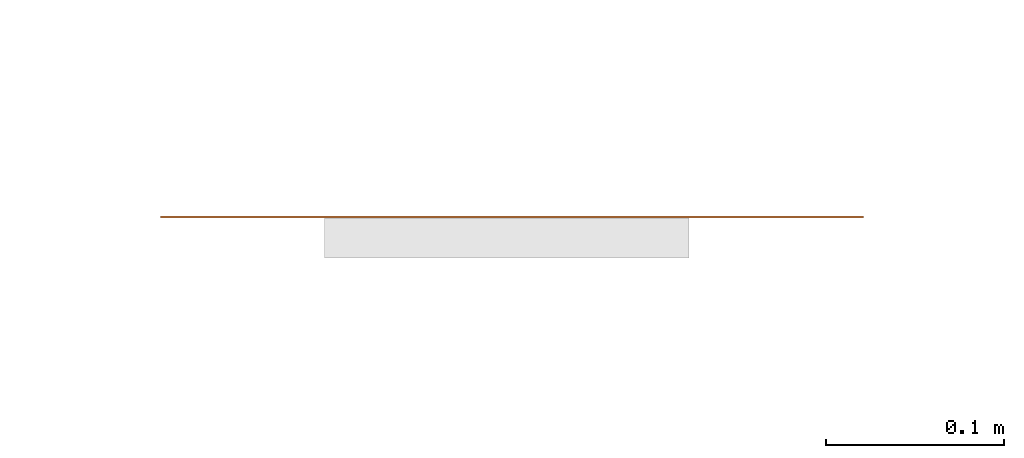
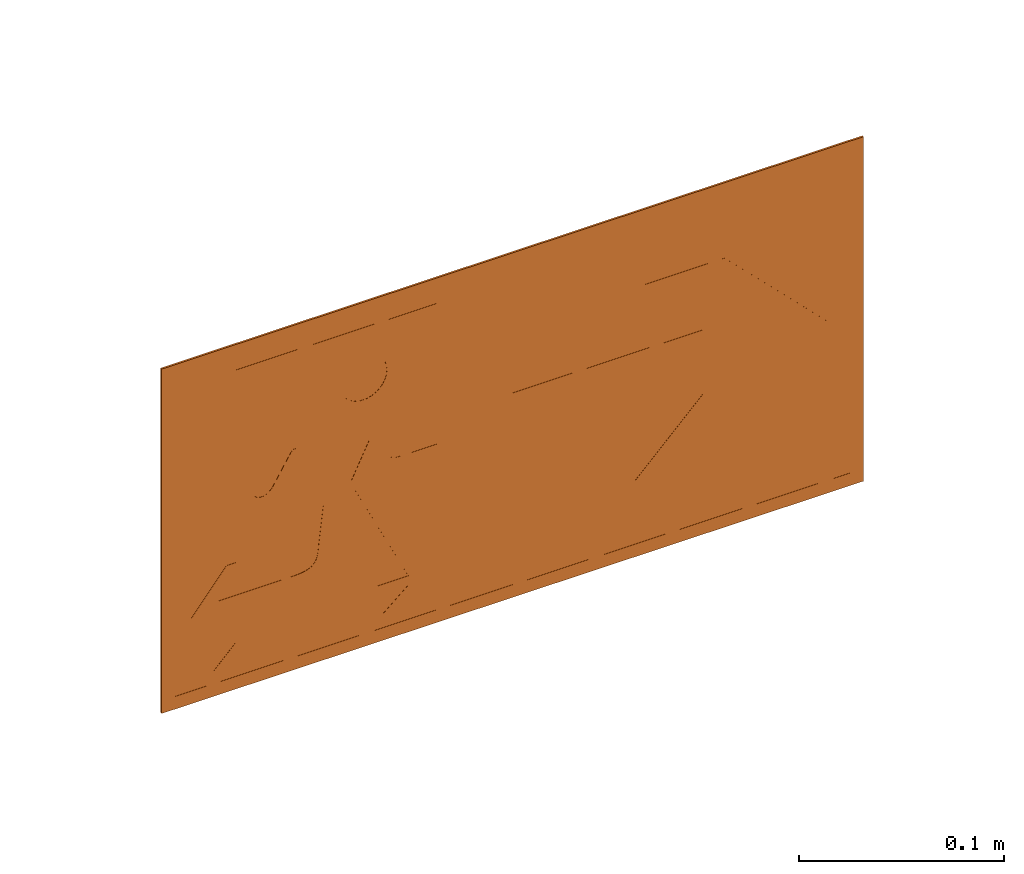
# One storey, part 50 of 119: 1 proxy.
"""IFC2X3 building model written with IfcOpenShell, lengths in metres."""

from ifc_helpers import new_model, entity, si_unit, converted_unit, derived_unit, direction, frame, frame_2d, origin, origin_2d_with_axis, place, context, subcontext, project, spatial, polyline, circle_curve, parameter, trimmed, segment, composite_curve, rectangle, outline, extrude, source, transform, mapped, material, material_list, type_object, type_shapes, element, save


model = new_model("IFC2X3")

# Units and contexts
model_context = context("Model", 3, precision=1e-05, world=origin(), true_north=direction((6.12303176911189e-17, 1.0)))
body_context = subcontext(model_context, "Body", "Model", "MODEL_VIEW")
ifc_project = project(units=[si_unit("LENGTHUNIT", "METRE"), si_unit("AREAUNIT", "SQUARE_METRE"), si_unit("VOLUMEUNIT", "CUBIC_METRE"), converted_unit("PLANEANGLEUNIT", "DEGREE", entity("IfcRatioMeasure", 0.0174532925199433), si_unit("PLANEANGLEUNIT", "RADIAN"), dimensions=[0, 0, 0, 0, 0, 0, 0]), si_unit("MASSUNIT", "GRAM", prefix="KILO"), derived_unit("MASSDENSITYUNIT", [(si_unit("MASSUNIT", "GRAM", prefix="KILO"), 1), (si_unit("LENGTHUNIT", "METRE"), -3)]), derived_unit("MOMENTOFINERTIAUNIT", [(si_unit("LENGTHUNIT", "METRE"), 4)]), si_unit("TIMEUNIT", "SECOND"), si_unit("FREQUENCYUNIT", "HERTZ"), si_unit("THERMODYNAMICTEMPERATUREUNIT", "DEGREE_CELSIUS"), derived_unit("THERMALTRANSMITTANCEUNIT", [(si_unit("MASSUNIT", "GRAM", prefix="KILO"), 1), (si_unit("THERMODYNAMICTEMPERATUREUNIT", "KELVIN"), -1), (si_unit("TIMEUNIT", "SECOND"), -3)]), derived_unit("VOLUMETRICFLOWRATEUNIT", [(si_unit("LENGTHUNIT", "METRE"), 3), (si_unit("TIMEUNIT", "SECOND"), -1)]), si_unit("ELECTRICCURRENTUNIT", "AMPERE"), si_unit("ELECTRICVOLTAGEUNIT", "VOLT"), si_unit("POWERUNIT", "WATT"), si_unit("FORCEUNIT", "NEWTON", prefix="KILO"), si_unit("ILLUMINANCEUNIT", "LUX"), si_unit("LUMINOUSFLUXUNIT", "LUMEN"), si_unit("LUMINOUSINTENSITYUNIT", "CANDELA"), derived_unit("USERDEFINED", [(si_unit("MASSUNIT", "GRAM", prefix="KILO"), -1), (si_unit("LENGTHUNIT", "METRE"), -2), (si_unit("TIMEUNIT", "SECOND"), 3), (si_unit("LUMINOUSFLUXUNIT", "LUMEN"), 1)]), derived_unit("LINEARVELOCITYUNIT", [(si_unit("LENGTHUNIT", "METRE"), 1), (si_unit("TIMEUNIT", "SECOND"), -1)]), si_unit("PRESSUREUNIT", "PASCAL"), derived_unit("USERDEFINED", [(si_unit("LENGTHUNIT", "METRE"), -2), (si_unit("MASSUNIT", "GRAM", prefix="KILO"), 1), (si_unit("TIMEUNIT", "SECOND"), -2)]), derived_unit("LINEARFORCEUNIT", [(si_unit("MASSUNIT", "GRAM", prefix="KILO"), 1), (si_unit("LENGTHUNIT", "METRE"), 1), (si_unit("TIMEUNIT", "SECOND"), -2), (si_unit("LENGTHUNIT", "METRE"), -1)]), derived_unit("PLANARFORCEUNIT", [(si_unit("MASSUNIT", "GRAM", prefix="KILO"), 1), (si_unit("LENGTHUNIT", "METRE"), 1), (si_unit("TIMEUNIT", "SECOND"), -2), (si_unit("LENGTHUNIT", "METRE"), -2)])], contexts=[model_context])

# Site, building, storey
site_placement = place(None, origin())
site = spatial("IfcSite", under=ifc_project, at=site_placement, Name="Default", CompositionType="ELEMENT")
building_placement = place(site_placement, origin())
building = spatial("IfcBuilding", under=site, at=building_placement, CompositionType="ELEMENT")
storey_placement = place(building_placement, origin())
storey = spatial("IfcBuildingStorey", under=building, at=storey_placement, Name="PAV. 01 - TÉRREO", CompositionType="ELEMENT", Elevation=0.0)

# Proxy
ifc_material_1 = material(Name="Plastico branco")
ifc_material_2 = material(Name="Plastico Verde")
ifc_material_list = material_list([ifc_material_1, ifc_material_2])
building_element_proxy_type = type_object("IfcBuildingElementProxyType", Name="Sinalização de orientação - S01 - Indicação do sentido da saída de emergência direita:Distância 12m", PredefinedType="NOTDEFINED", material=ifc_material_1)
shared_shape = source(origin(), body_context, "Body", "SweptSolid", [
    extrude(outline(polyline([(0.0124622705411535, 0.0340163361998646), (0.0116069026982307, 0.0335634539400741), (0.0110082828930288, 0.0323153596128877), (0.0106205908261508, 0.0304379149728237), (0.0103980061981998, 0.0280969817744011), (0.0102947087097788, 0.0254584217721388), (0.0102359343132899, 0.0148408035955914), (0.0100952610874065, 0.0101688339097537), (0.00995272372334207, 0.00797089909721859), (0.00974625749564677, 0.00585117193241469), (0.00946401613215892, 0.00379928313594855), (0.00909414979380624, 0.0018048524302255), (0.00861827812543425, -0.000162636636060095), (0.00799797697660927, -0.00219550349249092), (0.00719098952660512, -0.00439788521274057), (0.00615505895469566, -0.0068739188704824), (0.00484792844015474, -0.00972774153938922), (0.00322734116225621, -0.0130634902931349), (-0.00393772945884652, -0.0270036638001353), (0.00911414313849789, -0.0269659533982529), (0.00975353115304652, -0.0269418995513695), (0.0101589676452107, -0.0269097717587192), (0.0104072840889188, -0.0268684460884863), (0.0105753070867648, -0.026816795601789), (0.0107283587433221, -0.0267465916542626), (0.0108956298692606, -0.0266273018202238), (0.0110992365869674, -0.0264240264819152), (0.0113612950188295, -0.02610186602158), (0.0117039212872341, -0.02562592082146), (0.0121492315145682, -0.0249612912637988), (0.0134363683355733, -0.022926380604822), (0.0220622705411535, -0.00866366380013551), (0.0231418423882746, -0.00739752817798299), (0.024244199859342, -0.00641124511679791), (0.0253551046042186, -0.00568750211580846), (0.026460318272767, -0.0052089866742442), (0.0275456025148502, -0.00495838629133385), (0.0285967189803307, -0.00491838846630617), (0.0295994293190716, -0.00507168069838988), (0.0305394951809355, -0.00540095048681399), (0.0314026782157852, -0.00588888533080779), (0.0321747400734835, -0.00651817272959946), (0.0328414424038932, -0.0072715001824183), (0.033388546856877, -0.00813155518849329), (0.0338018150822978, -0.00908102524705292), (0.0340670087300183, -0.0101025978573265), (0.0341698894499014, -0.0111789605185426), (0.0340962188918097, -0.0122928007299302), (0.0338317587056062, -0.0134268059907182), (0.0333622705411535, -0.0145636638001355), (0.027258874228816, -0.0250738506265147), (0.0231922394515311, -0.0317577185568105), (0.020455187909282, -0.0355759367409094), (0.0183405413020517, -0.0374891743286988), (0.0161486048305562, -0.0384492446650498), (0.0134863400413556, -0.0390450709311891), (0.0103684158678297, -0.0393831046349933), (0.00683771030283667, -0.0395364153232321), (-0.0223273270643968, -0.0395794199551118), (-0.0254276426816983, -0.0395207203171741), (-0.0281392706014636, -0.0392326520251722), (-0.0306250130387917, -0.0385308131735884), (-0.0330476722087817, -0.0372308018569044), (-0.0355700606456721, -0.0351482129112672), (-0.0383972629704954, -0.0320852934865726), (-0.0418729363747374, -0.0278005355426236), (-0.0522577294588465, -0.0145636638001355), (-0.0701177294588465, -0.0145636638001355), (-0.0701177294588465, -0.0855036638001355), (0.0426422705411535, -0.0855036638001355), (0.0426422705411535, 0.0290963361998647), (0.0481022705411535, 0.0290963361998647), (0.0680622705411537, 0.0537563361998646), (0.0426422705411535, 0.0537563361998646), (0.0426422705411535, 0.0764363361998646), (0.0551222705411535, 0.0891363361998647), (-0.0240977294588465, 0.0891363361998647), (-0.0371577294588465, 0.0764363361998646), (-0.0542977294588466, 0.0764363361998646), (-0.039344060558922, 0.0891363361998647), (-0.0579777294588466, 0.0891363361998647), (-0.0701177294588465, 0.0764363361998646), (-0.0701177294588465, -0.00182366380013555), (-0.0500921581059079, -0.00182052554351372), (-0.048376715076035, -0.00187323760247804), (-0.0469973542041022, -0.00203451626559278), (-0.0458400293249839, -0.00235707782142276), (-0.0447906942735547, -0.00289363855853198), (-0.0437353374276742, -0.0036968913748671), (-0.0425823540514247, -0.00480435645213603), (-0.0413011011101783, -0.00621227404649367), (-0.0398712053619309, -0.00790993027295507), (-0.0322577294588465, -0.0173836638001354), (-0.0217377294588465, 0.00417633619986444), (-0.0542977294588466, 0.0709363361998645), (-0.0371577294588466, 0.0709363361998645), (-0.00639772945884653, 0.0127763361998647), (-0.00393772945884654, 0.0340163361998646), (-0.00373167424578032, 0.0366224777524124), (-0.00346846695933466, 0.0389264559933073), (-0.00310194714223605, 0.0409426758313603), (-0.00258595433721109, 0.0426855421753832), (-0.00187432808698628, 0.0441694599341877), (-0.000920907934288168, 0.0454088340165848), (0.000320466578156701, 0.0464180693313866), (0.00189595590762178, 0.0472115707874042), (0.00385172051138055, 0.0478037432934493), (0.00623392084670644, 0.0482089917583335), (0.00908871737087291, 0.0484417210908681), (0.0124622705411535, 0.0485163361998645), (0.0551222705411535, 0.0485163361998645), (0.0426422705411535, 0.0340163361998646), (0.0124622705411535, 0.0340163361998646)]), holes=[composite_curve([segment(trimmed(circle_curve(frame_2d((-0.0288977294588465, -0.0559436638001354), x_axis=(-1.0, 0.0)), 0.0134), [parameter(180.0)], [parameter(360.0)], True, "PARAMETER"), False, "CONTINUOUS"), segment(trimmed(circle_curve(frame_2d((-0.0288977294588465, -0.0559436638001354), x_axis=(-1.0, 0.0)), 0.0134), [parameter(2.03555499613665e-13)], [parameter(180.0)], True, "PARAMETER"), False, "CONTINUOUS")], self_intersect=False)]), frame((-0.112957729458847, -0.00110000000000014, 1.90431633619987), z_axis=(0.0, -1.0, 0.0), x_axis=(-1.0, 0.0, 0.0)), (0.0, 0.0, -1.0), 0.0011),
    extrude(outline(polyline([(-0.102500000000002, -0.197500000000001), (0.102500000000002, -0.197500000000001), (0.102500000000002, 0.197500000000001), (-0.102500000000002, 0.197500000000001), (-0.102500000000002, -0.197500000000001)]), holes=[polyline([(-0.0950000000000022, -0.190000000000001), (-0.0950000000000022, 0.189999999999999), (0.0949999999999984, 0.189999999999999), (0.0949999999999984, -0.190000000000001), (-0.0950000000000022, -0.190000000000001)])]), frame((0.0, -0.0011, 1.9025), z_axis=(0.0, 1.0, 0.0), x_axis=(0.0, 0.0, -1.0)), (0.0, 0.0, 1.0), 0.0011),
    extrude(rectangle(XDim=0.001, YDim=0.38, at=origin_2d_with_axis()), frame((0.0, -0.0005, 1.8075), z_axis=(0.0, 0.0, 1.0), x_axis=(0.0, 1.0, 0.0)), (0.0, 0.0, 1.0), 0.190000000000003),
    extrude(outline(polyline([(-0.0165808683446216, -0.0648778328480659), (0.0648778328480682, -0.0648778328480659), (0.0648778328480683, 0.016580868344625), (0.0289709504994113, 0.0524877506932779), (0.0289709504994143, -0.00190290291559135), (-0.0467319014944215, 0.073799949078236), (-0.0737999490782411, 0.0467319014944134), (0.00190290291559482, -0.0289709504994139), (-0.0524877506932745, -0.028970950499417), (-0.0165808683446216, -0.0648778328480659)])), frame((0.0852288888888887, -0.0011, 1.9025), z_axis=(0.0, 1.0, 0.0), x_axis=(0.707106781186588, 0.0, -0.707106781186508)), (0.0, 0.0, 1.0), 0.0011),
])
type_shapes(building_element_proxy_type, [shared_shape])
proxy_placement = place(storey_placement, frame((34.0615605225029, 8.03338193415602, 0.0)))
element("IfcBuildingElementProxy", 1, at=proxy_placement, inside=storey, type_object=building_element_proxy_type, material=ifc_material_list, Name="Sinalização de orientação - S01 - Indicação do sentido da saída de emergência direita:Distância 12m", ObjectType="Sinalização de orientação - S01 - Indicação do sentido da saída de emergência direita:Distância 12m", context=body_context, shape_type="MappedRepresentation", body=[
    mapped(shared_shape, transform((0.0, 0.0, 0.0), scale=1.0)),
])

save(model, "model.ifc")
